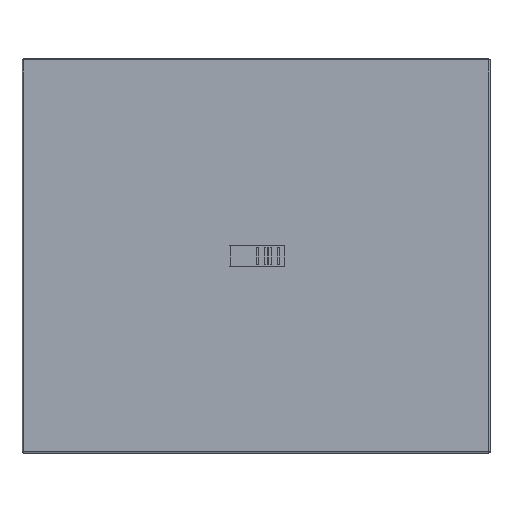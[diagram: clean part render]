
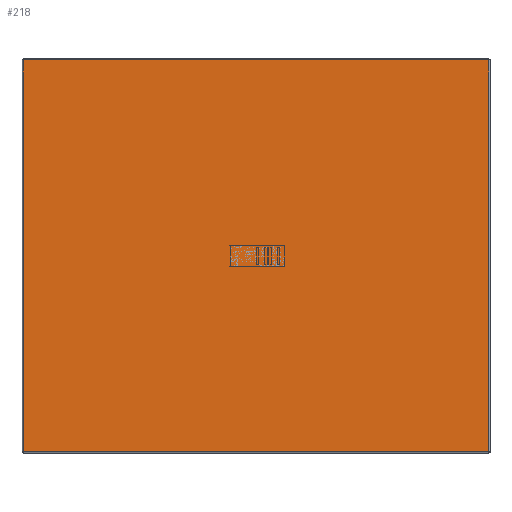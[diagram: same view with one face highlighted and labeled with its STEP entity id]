
A CAD part, top view. The second image highlights one B-rep face of the part: STEP entity #218.
In plain terms, the highlighted planar face has unit normal (0, 0, 1).
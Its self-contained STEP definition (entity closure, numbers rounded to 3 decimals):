
#218 = ADVANCED_FACE( '', ( #342 ), #343, .F. );
#342 = FACE_OUTER_BOUND( '', #526, .T. );
#343 = PLANE( '', #527 );
#526 = EDGE_LOOP( '', ( #1031, #1032, #1033, #1034 ) );
#527 = AXIS2_PLACEMENT_3D( '', #1035, #1036, #1037 );
#1031 = ORIENTED_EDGE( '', *, *, #1526, .T. );
#1032 = ORIENTED_EDGE( '', *, *, #1527, .T. );
#1033 = ORIENTED_EDGE( '', *, *, #1528, .T. );
#1034 = ORIENTED_EDGE( '', *, *, #1529, .T. );
#1035 = CARTESIAN_POINT( '', ( -355.6, 300.038, 0. ) );
#1036 = DIRECTION( '', ( 0., 0., -1. ) );
#1037 = DIRECTION( '', ( -1., 0., 0. ) );
#1526 = EDGE_CURVE( '', #1784, #1785, #1786, .T. );
#1527 = EDGE_CURVE( '', #1785, #1779, #1787, .T. );
#1528 = EDGE_CURVE( '', #1779, #1788, #1789, .T. );
#1529 = EDGE_CURVE( '', #1788, #1784, #1790, .T. );
#1779 = VERTEX_POINT( '', #2174 );
#1784 = VERTEX_POINT( '', #2180 );
#1785 = VERTEX_POINT( '', #2181 );
#1786 = LINE( '', #2182, #2183 );
#1787 = LINE( '', #2184, #2185 );
#1788 = VERTEX_POINT( '', #2186 );
#1789 = LINE( '', #2187, #2188 );
#1790 = LINE( '', #2189, #2190 );
#2174 = CARTESIAN_POINT( '', ( -353.416, -297.853, 0. ) );
#2180 = CARTESIAN_POINT( '', ( 353.416, 297.853, 0. ) );
#2181 = CARTESIAN_POINT( '', ( -353.416, 297.853, 0. ) );
#2182 = CARTESIAN_POINT( '', ( 355.6, 297.853, 0. ) );
#2183 = VECTOR( '', #2702, 1000. );
#2184 = CARTESIAN_POINT( '', ( -353.416, 297.853, 0. ) );
#2185 = VECTOR( '', #2703, 1000. );
#2186 = CARTESIAN_POINT( '', ( 353.416, -297.853, 0. ) );
#2187 = CARTESIAN_POINT( '', ( -355.6, -297.853, 0. ) );
#2188 = VECTOR( '', #2704, 1000. );
#2189 = CARTESIAN_POINT( '', ( 353.416, -297.853, 0. ) );
#2190 = VECTOR( '', #2705, 1000. );
#2702 = DIRECTION( '', ( -1., 0., 0. ) );
#2703 = DIRECTION( '', ( 0., -1., 0. ) );
#2704 = DIRECTION( '', ( 1., 0., 0. ) );
#2705 = DIRECTION( '', ( 0., 1., 0. ) );
